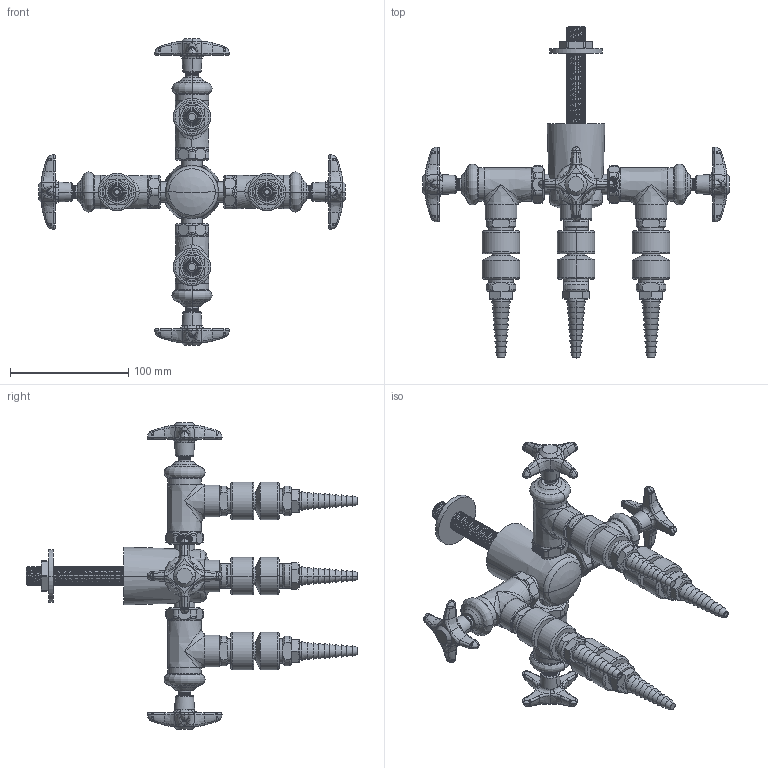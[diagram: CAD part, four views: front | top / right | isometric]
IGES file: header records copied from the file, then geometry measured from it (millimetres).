
Start section:  PTC IGES file: LWV2-C41-40.igs
Global section: file name: LWV2-C41-40.igs; native system: Creo Parametric by PTC Inc.; preprocessor: 2014500; author: usch_engrender; organization: Unknown; date: 20151117.102801; units: inch
Bounding box: 259.77 x 280.82 x 259.77 mm (x, y, z)
Volume: 554415.3 mm3; surface area: 137414.5 mm2
Topology: 1 solids, 7 shells, 2348 faces, 5419 edges, 3197 vertices
Faces by surface type: bspline 1245, revolution 1103
